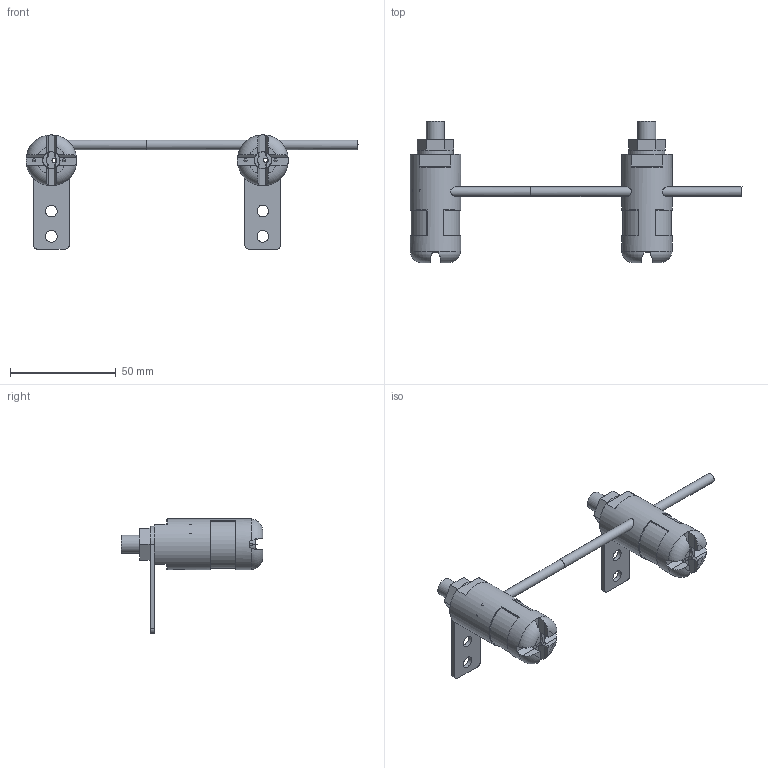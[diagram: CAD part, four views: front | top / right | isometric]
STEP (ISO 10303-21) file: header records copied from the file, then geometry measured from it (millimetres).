
FILE_DESCRIPTION(('ONLY FOR INFORMATION','HiCAD-Model','HiCAD-STEP-TRANSLATION'),'2;1');
FILE_NAME('Q:/##','2010-00-00',('D&E Department'),('Simco (Nederland) B.V.','Aalsvoort 74','NL-7241 MB LOCHEM','www.simco-ion.nl'),' HiCAD neXt 2008, Step 3.1.1401.2E ','HiCAD neXt 2008','confidential');
FILE_SCHEMA(('AUTOMOTIVE_DESIGN { 1 2 10303 214 0 1 1 1 }'));
Length unit declared in the file: millimetre
Products named in the file (9): SIMCO_HE_NOZZLE; HE_NOZZLE_CE; HE0NOZZLE0CE; BEUGEL; NIPPEL 1_8BSPT; HE_NOZZLE_DE; HE0NOZZLE0DE; BEUGEL0; NIPPEL0108BSPT
Assembly tree (8 placements, depth 3):
  SIMCO_HE_NOZZLE
    HE_NOZZLE_CE
    HE0NOZZLE0CE
      BEUGEL
      NIPPEL 1_8BSPT
    HE_NOZZLE_DE
    HE0NOZZLE0DE
      BEUGEL0
      NIPPEL0108BSPT
Bounding box: 156.99 x 66.86 x 54.01 mm (x, y, z)
Volume: 35636.8 mm3; surface area: 27103.8 mm2
Topology: 6 solids, 6 shells, 336 faces, 940 edges, 622 vertices
Faces by surface type: plane 192, cylinder 108, torus 24, cone 6, sphere 6
Full cylindrical faces by diameter (mm): 1.45 x4, 1.9 x2, 2 x2, 3 x4, 4.5 x5, 5 x2, 5.5 x4, 8.2 x2, 8.566 x4, 10 x6, 20.1 x2, 24 x2
Entity records: 21283 total; most frequent: CARTESIAN_POINT 9215, ORIENTED_EDGE 1688, DIRECTION 1668, EDGE_CURVE 844, COLOUR_RGB 689, PRESENTATION_STYLE_ASSIGNMENT 689, OVER_RIDING_STYLED_ITEM 683, AXIS2_PLACEMENT_3D 663
